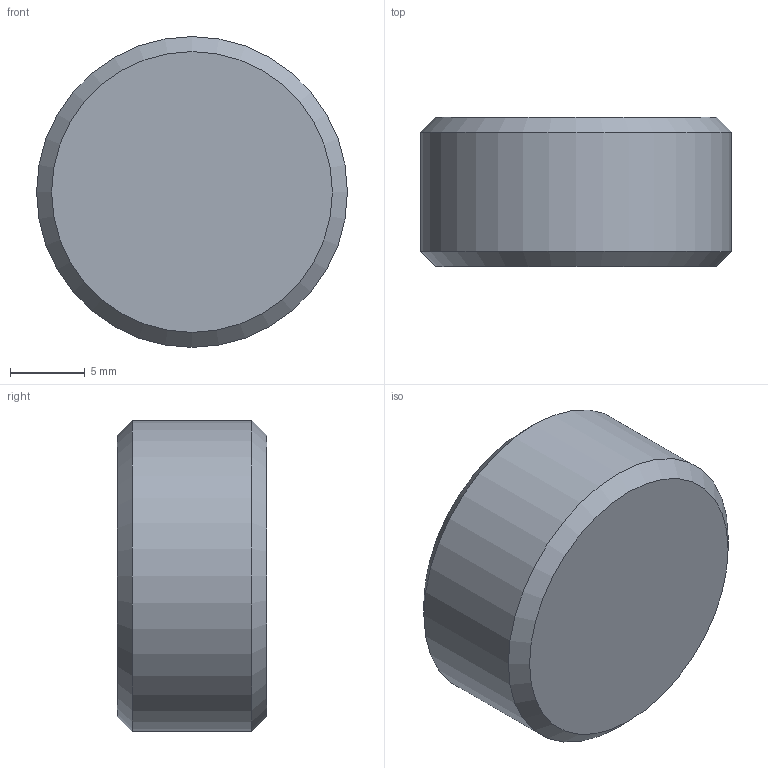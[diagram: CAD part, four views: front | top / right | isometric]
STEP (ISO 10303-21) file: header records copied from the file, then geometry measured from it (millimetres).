
FILE_DESCRIPTION(/* description */ (''),/* implementation_level */ '2;1');
FILE_NAME(/* name */ 'C:/Users/drich/Desktop/cad/Plugs/BSPT Pipe Plugs/Brass/BF-BSPT-12 v1.step',/* time_stamp */ '2020-01-10T12:53:33-06:00',/* author */ (''),/* organization */ (''),/* preprocessor_version */ 'ST-DEVELOPER v18',/* originating_system */ 'Autodesk Translation Framework v8.12.0.6',/* authorisation */ '');
FILE_SCHEMA (('AUTOMOTIVE_DESIGN { 1 0 10303 214 3 1 1 }'));
Length unit declared in the file: inch
Products named in the file (1): BF-BSPT-12
Bounding box: 20.81 x 10.01 x 20.81 mm (x, y, z)
Volume: 2734 mm3; surface area: 1494.3 mm2
Topology: 1 solids, 1 shells, 13 faces, 35 edges, 25 vertices
Faces by surface type: plane 9, cone 3, cylinder 1
Full cylindrical faces by diameter (mm): 20.813 x1
Entity records: 446 total; most frequent: CARTESIAN_POINT 98, ORIENTED_EDGE 70, DIRECTION 58, EDGE_CURVE 35, VERTEX_POINT 25, AXIS2_PLACEMENT_3D 21, LINE 16, VECTOR 16
